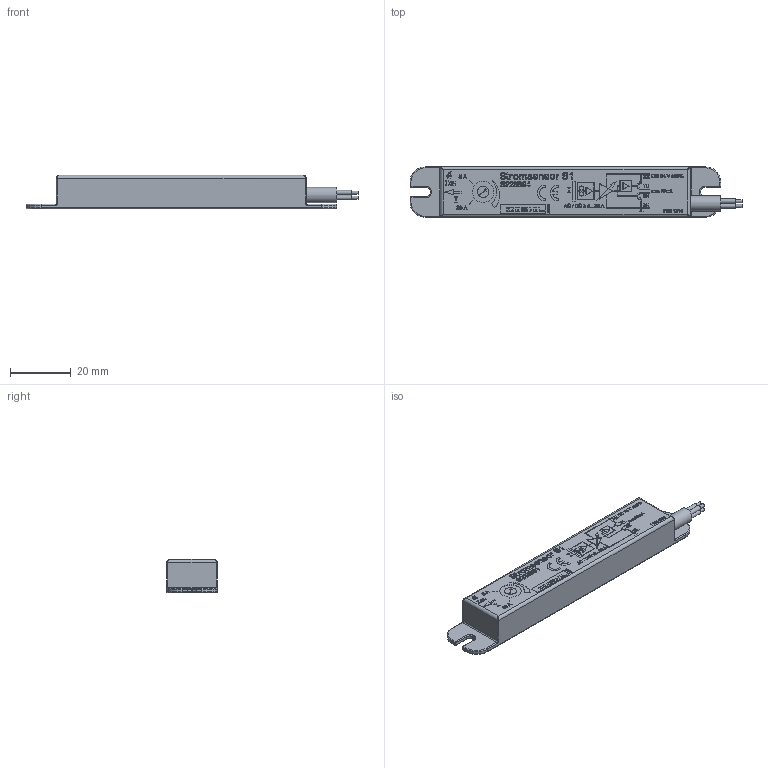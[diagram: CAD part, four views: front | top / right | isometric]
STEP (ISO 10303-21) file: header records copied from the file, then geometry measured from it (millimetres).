
FILE_DESCRIPTION (( 'STEP AP214' ), '1' );
FILE_NAME ('11800-1902-00_3D.STEP', '2014-12-18T08:50:44', ( '' ), ( '' ), 'SwSTEP 2.0', 'SolidWorks 2014', '' );
FILE_SCHEMA (( 'AUTOMOTIVE_DESIGN' ));
Length unit declared in the file: millimetre
Products named in the file (3): 1180 1215_3D; 11800-1902-00_3D
Assembly tree (2 placements, depth 2):
  11800-1902-00_3D
    11800-1902-00_3D
    1180 1215_3D
Bounding box: 109 x 16.5 x 11.02 mm (x, y, z)
Volume: 15475.1 mm3; surface area: 5912.8 mm2
Topology: 145 solids, 145 shells, 1482 faces, 3482 edges, 2299 vertices
Faces by surface type: plane 1138, bspline 257, cylinder 67, torus 20
Full cylindrical faces by diameter (mm): 0.3 x1, 0.544 x4, 1 x4, 1.5 x4, 3.8 x1, 5 x1, 7 x1
Entity records: 50435 total; most frequent: CARTESIAN_POINT 16193, ORIENTED_EDGE 6912, DIRECTION 5519, EDGE_CURVE 3456, LINE 2799, VECTOR 2799, VERTEX_POINT 2298, EDGE_LOOP 1598
